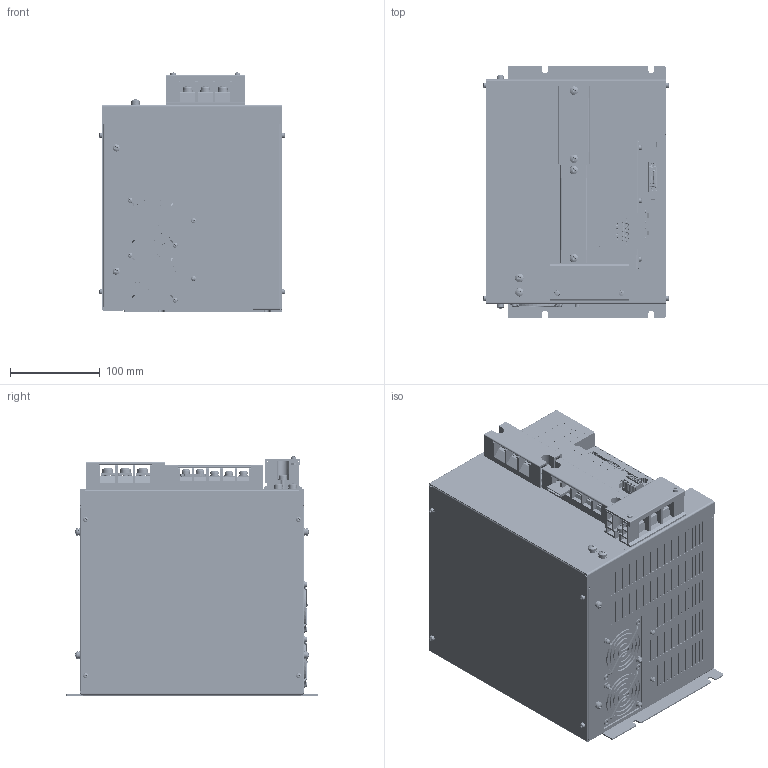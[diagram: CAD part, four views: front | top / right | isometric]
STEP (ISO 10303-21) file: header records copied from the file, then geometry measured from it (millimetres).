
FILE_DESCRIPTION (( 'STEP AP203' ), '1' );
FILE_NAME ('NCR-HD2_153#SE-94830.STEP', '2021-07-13T06:33:45', ( '' ), ( '' ), 'SwSTEP 2.0', 'SolidWorks 2018', '' );
FILE_SCHEMA (( 'CONFIG_CONTROL_DESIGN' ));
Products named in the file (1): NCR-HD2_153#SE-94830
Bounding box: 207.11 x 280 x 265.98 mm (x, y, z)
Volume: 11522687.4 mm3; surface area: 472088.9 mm2
Topology: 5 solids, 92 shells, 14150 faces, 37737 edges, 24536 vertices
Faces by surface type: plane 8981, cylinder 2410, bspline 1683, cone 686, torus 274, sphere 116
Entity records: 498150 total; most frequent: CARTESIAN_POINT 155878, ORIENTED_EDGE 75290, DIRECTION 63928, EDGE_CURVE 37645, LINE 24816, VECTOR 24816, VERTEX_POINT 24536, AXIS2_PLACEMENT_3D 19556
